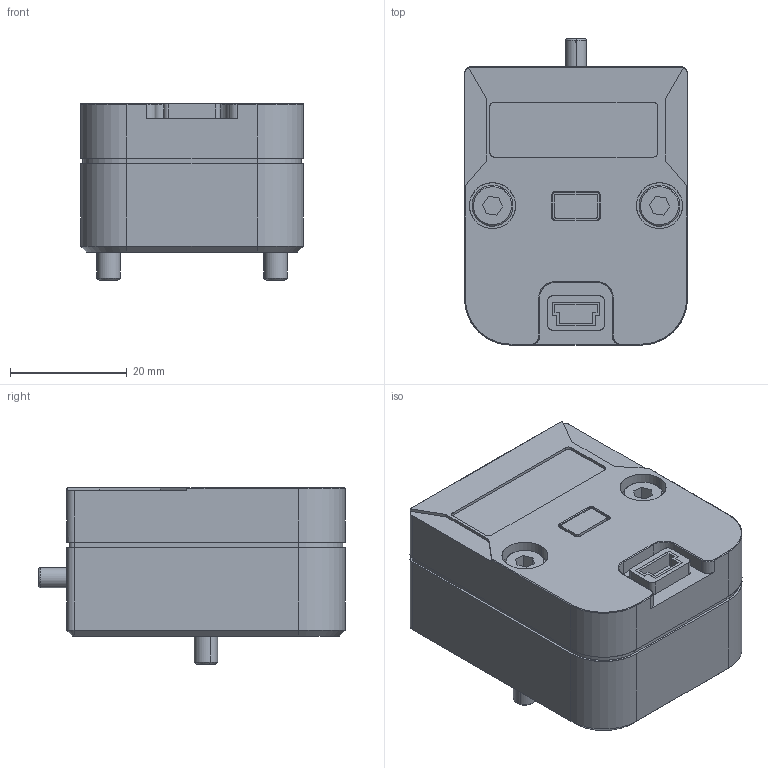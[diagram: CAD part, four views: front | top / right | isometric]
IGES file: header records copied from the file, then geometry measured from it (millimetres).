
Start section: SolidWorks IGES file using analytic representation for surfaces
Global section: file name: C:\Users\01KAK2013\Desktop\CVe Website\3D\Library Files\METRIC\CVE-ASM\CVE-M_METRIC-ASM\CVE-M_METRIC.igs; native system: SolidWorks 2012; preprocessor: SolidWorks 2012; author: 01kak2013; date: 140528.112153; units: millimetre
Bounding box: 38.1 x 52.4 x 30.21 mm (x, y, z)
Surface area: 10021.4 mm2 (no closed solid volume)
Topology: 0 solids, 0 shells, 190 faces, 1794 edges, 1794 vertices
Faces by surface type: bspline 116, revolution 74
